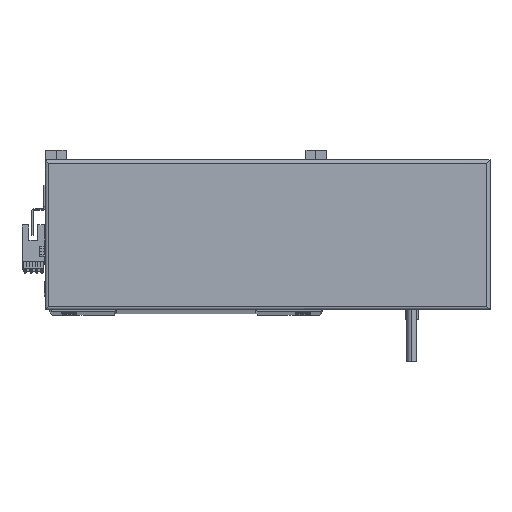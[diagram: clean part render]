
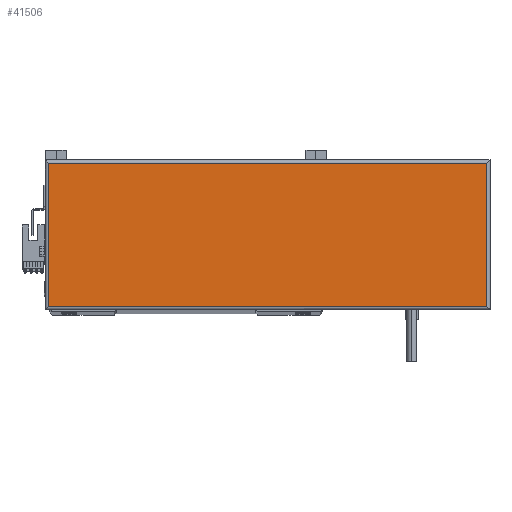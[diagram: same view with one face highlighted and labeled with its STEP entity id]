
A CAD part, top view. The second image highlights one B-rep face of the part: STEP entity #41506.
In plain terms, the highlighted planar face has unit normal (0, 0, 1).
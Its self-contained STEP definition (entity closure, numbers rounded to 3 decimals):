
#1180 = FACE_OUTER_BOUND ( 'NONE', #31571, .T. ) ;
#1550 = VECTOR ( 'NONE', #14980, 1000. ) ;
#4264 = CARTESIAN_POINT ( 'NONE',  ( 133.5, 45., 44.8 ) ) ;
#11440 = DIRECTION ( 'NONE',  ( 1., 0., 0. ) ) ;
#13434 = CARTESIAN_POINT ( 'NONE',  ( 265., 88., 44.8 ) ) ;
#14745 = AXIS2_PLACEMENT_3D ( 'NONE', #4264, #34984, #46709 ) ;
#14810 = CARTESIAN_POINT ( 'NONE',  ( 265., 90., 44.8 ) ) ;
#14980 = DIRECTION ( 'NONE',  ( 0., 1., 0. ) ) ;
#16947 = VECTOR ( 'NONE', #11440, 1000. ) ;
#17362 = ORIENTED_EDGE ( 'NONE', *, *, #26933, .T. ) ;
#17761 = VERTEX_POINT ( 'NONE', #13434 ) ;
#19545 = PLANE ( 'NONE',  #14745 ) ;
#21898 = VECTOR ( 'NONE', #49525, 1000. ) ;
#22293 = EDGE_CURVE ( 'NONE', #38748, #35064, #44011, .T. ) ;
#22366 = CARTESIAN_POINT ( 'NONE',  ( 2., 0., 44.8 ) ) ;
#26544 = DIRECTION ( 'NONE',  ( 0., -1., 0. ) ) ;
#26933 = EDGE_CURVE ( 'NONE', #17761, #30817, #41659, .T. ) ;
#27509 = CARTESIAN_POINT ( 'NONE',  ( 2., 88., 44.8 ) ) ;
#29767 = LINE ( 'NONE', #14810, #1550 ) ;
#30435 = CARTESIAN_POINT ( 'NONE',  ( 0., 88., 44.8 ) ) ;
#30817 = VERTEX_POINT ( 'NONE', #27509 ) ;
#31571 = EDGE_LOOP ( 'NONE', ( #39294, #17362, #49354, #35989 ) ) ;
#34026 = VECTOR ( 'NONE', #26544, 1000. ) ;
#34541 = CARTESIAN_POINT ( 'NONE',  ( 265., 2., 44.8 ) ) ;
#34676 = LINE ( 'NONE', #22366, #34026 ) ;
#34984 = DIRECTION ( 'NONE',  ( 0., 0., 1. ) ) ;
#35064 = VERTEX_POINT ( 'NONE', #34541 ) ;
#35989 = ORIENTED_EDGE ( 'NONE', *, *, #22293, .T. ) ;
#38748 = VERTEX_POINT ( 'NONE', #48675 ) ;
#39294 = ORIENTED_EDGE ( 'NONE', *, *, #44849, .T. ) ;
#41506 = ADVANCED_FACE ( 'NONE', ( #1180 ), #19545, .T. ) ;
#41659 = LINE ( 'NONE', #30435, #21898 ) ;
#41962 = CARTESIAN_POINT ( 'NONE',  ( 267., 2., 44.8 ) ) ;
#43959 = EDGE_CURVE ( 'NONE', #30817, #38748, #34676, .T. ) ;
#44011 = LINE ( 'NONE', #41962, #16947 ) ;
#44849 = EDGE_CURVE ( 'NONE', #35064, #17761, #29767, .T. ) ;
#46709 = DIRECTION ( 'NONE',  ( 1., 0., 0. ) ) ;
#48675 = CARTESIAN_POINT ( 'NONE',  ( 2., 2., 44.8 ) ) ;
#49354 = ORIENTED_EDGE ( 'NONE', *, *, #43959, .T. ) ;
#49525 = DIRECTION ( 'NONE',  ( -1., 0., 0. ) ) ;
